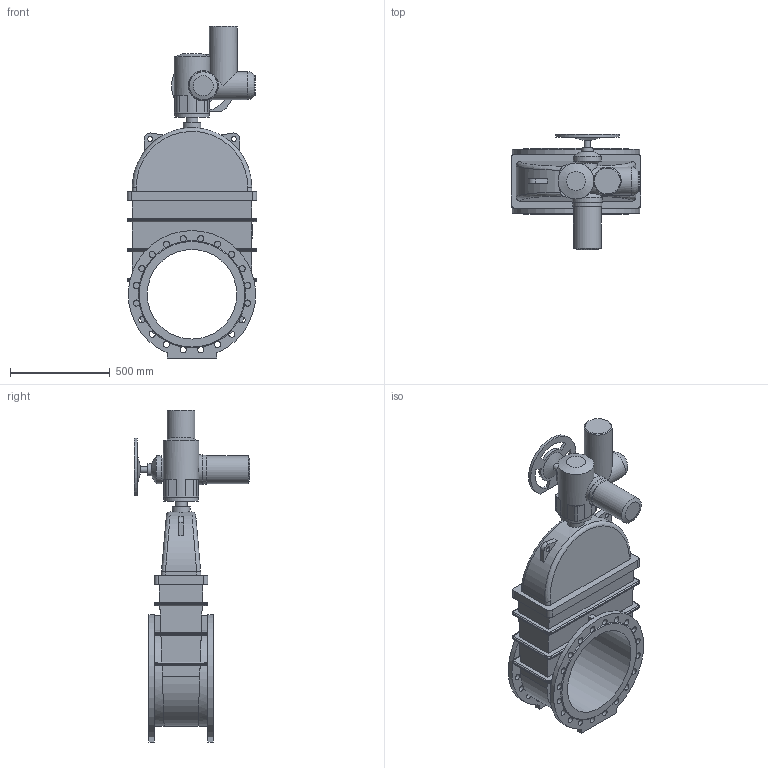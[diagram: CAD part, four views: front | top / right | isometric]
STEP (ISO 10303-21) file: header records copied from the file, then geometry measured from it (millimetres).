
FILE_DESCRIPTION(('STEP AP203'), '1');
FILE_NAME('青溻桄赅 47GVA.Z DN450 PN16+MT903.A30', '', ('UNSPECIFIED'), ('UNSPECIFIED'), 'ASCON STEP Converter 1.6', 'ASCON Math Kernel', '');
FILE_SCHEMA(('CONFIG_CONTROL_DESIGN'));
Length unit declared in the file: millimetre
Bounding box: 650 x 578 x 1667 mm (x, y, z)
Volume: 117495030.2 mm3; surface area: 3810995.5 mm2
Topology: 2 solids, 2 shells, 331 faces, 958 edges, 617 vertices
Faces by surface type: cylinder 153, plane 140, bspline 26, cone 11, torus 1
Full cylindrical faces by diameter (mm): 14 x4, 18 x4, 25 x2, 30 x1, 31 x40, 32 x1, 60 x2, 90 x1, 100 x3, 140 x4, 147 x1, 151 x1, 175 x1, 450 x1
Entity records: 20278 total; most frequent: CARTESIAN_POINT 9190, ORIENTED_EDGE 1762, DIRECTION 1670, EDGE_CURVE 881, AXIS2_PLACEMENT_3D 652, VERTEX_POINT 617, EDGE_LOOP 494, FACE_BOUND 388
